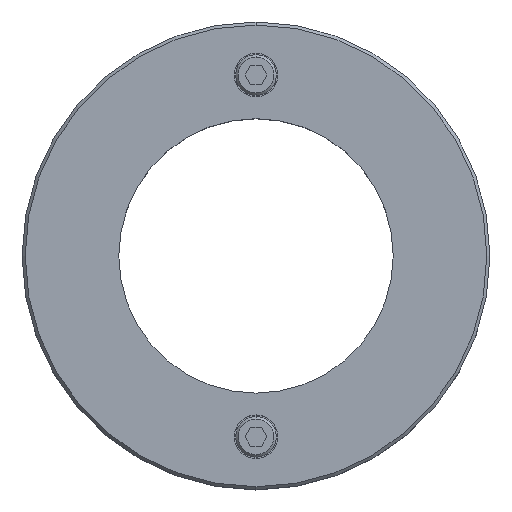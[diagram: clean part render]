
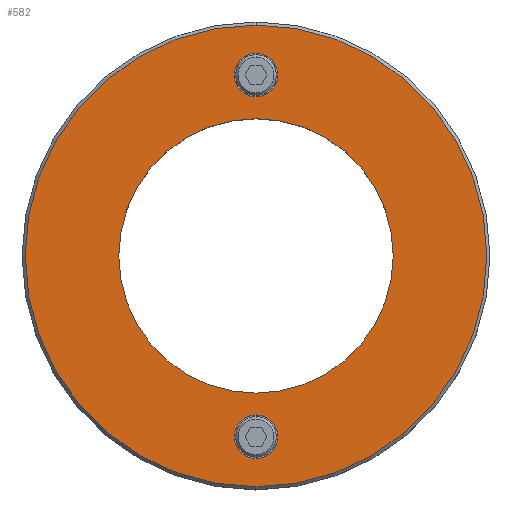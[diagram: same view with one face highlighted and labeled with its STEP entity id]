
A CAD part, top view. The second image highlights one B-rep face of the part: STEP entity #582.
In plain terms, the highlighted planar face has unit normal (0, 0, 1).
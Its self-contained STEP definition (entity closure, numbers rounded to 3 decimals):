
#105=VERTEX_POINT(' ',#106);
#106=CARTESIAN_POINT('',(0.,44.,30.));
#107=VERTEX_POINT(' ',#108);
#108=CARTESIAN_POINT('',(0.,-44.,30.));
#117=VERTEX_POINT(' ',#118);
#118=CARTESIAN_POINT('',(0.,65.,30.));
#119=VERTEX_POINT(' ',#120);
#120=CARTESIAN_POINT('',(0.,51.,30.));
#125=VERTEX_POINT(' ',#126);
#126=CARTESIAN_POINT('',(0.,-51.,30.));
#127=VERTEX_POINT(' ',#128);
#128=CARTESIAN_POINT('',(0.,-65.,30.));
#137=VERTEX_POINT(' ',#138);
#138=CARTESIAN_POINT('',(0.,-74.01,30.));
#139=VERTEX_POINT(' ',#140);
#140=CARTESIAN_POINT('',(0.,74.01,30.));
#199=CIRCLE('',#200,44.);
#200=AXIS2_PLACEMENT_3D('',#201,#202,#203);
#201=CARTESIAN_POINT('',(0.,0.,30.));
#202=DIRECTION('',(0.,0.,-1.));
#203=DIRECTION('',(-1.,0.,0.));
#204=EDGE_CURVE(' ',#105,#107,#199,.T.);
#205=CIRCLE('',#206,44.);
#206=AXIS2_PLACEMENT_3D('',#207,#208,#209);
#207=CARTESIAN_POINT('',(0.,0.,30.));
#208=DIRECTION('',(0.,0.,-1.));
#209=DIRECTION('',(1.,0.,0.));
#210=EDGE_CURVE(' ',#107,#105,#205,.T.);
#255=CIRCLE('',#256,7.);
#256=AXIS2_PLACEMENT_3D('',#257,#258,#259);
#257=CARTESIAN_POINT('',(0.,58.,30.));
#258=DIRECTION('',(0.,0.,1.));
#259=DIRECTION('',(1.,0.,0.));
#260=EDGE_CURVE(' ',#117,#119,#255,.T.);
#277=CIRCLE('',#278,7.);
#278=AXIS2_PLACEMENT_3D('',#279,#280,#281);
#279=CARTESIAN_POINT('',(0.,58.,30.));
#280=DIRECTION('',(0.,0.,1.));
#281=DIRECTION('',(-1.,0.,0.));
#282=EDGE_CURVE(' ',#119,#117,#277,.T.);
#289=CIRCLE('',#290,7.);
#290=AXIS2_PLACEMENT_3D('',#291,#292,#293);
#291=CARTESIAN_POINT('',(0.,-58.,30.));
#292=DIRECTION('',(0.,0.,1.));
#293=DIRECTION('',(1.,0.,0.));
#294=EDGE_CURVE(' ',#125,#127,#289,.T.);
#311=CIRCLE('',#312,7.);
#312=AXIS2_PLACEMENT_3D('',#313,#314,#315);
#313=CARTESIAN_POINT('',(0.,-58.,30.));
#314=DIRECTION('',(0.,0.,1.));
#315=DIRECTION('',(-1.,0.,0.));
#316=EDGE_CURVE(' ',#127,#125,#311,.T.);
#345=CIRCLE('',#346,74.01);
#346=AXIS2_PLACEMENT_3D('',#347,#348,#349);
#347=CARTESIAN_POINT('',(0.,0.,30.));
#348=DIRECTION('',(0.,0.,1.));
#349=DIRECTION('',(-1.,0.,0.));
#350=EDGE_CURVE(' ',#139,#137,#345,.F.);
#351=CIRCLE('',#352,74.01);
#352=AXIS2_PLACEMENT_3D('',#353,#354,#355);
#353=CARTESIAN_POINT('',(0.,0.,30.));
#354=DIRECTION('',(0.,0.,1.));
#355=DIRECTION('',(1.,0.,0.));
#356=EDGE_CURVE(' ',#137,#139,#351,.F.);
#561=ORIENTED_EDGE('',*,*,#350,.F.);
#562=ORIENTED_EDGE('',*,*,#356,.F.);
#563=EDGE_LOOP('',(#561,#562));
#564=FACE_OUTER_BOUND('',#563,.T.);
#565=ORIENTED_EDGE('',*,*,#316,.F.);
#566=ORIENTED_EDGE('',*,*,#294,.F.);
#567=EDGE_LOOP('',(#565,#566));
#568=FACE_BOUND('',#567,.T.);
#569=ORIENTED_EDGE('',*,*,#282,.F.);
#570=ORIENTED_EDGE('',*,*,#260,.F.);
#571=EDGE_LOOP('',(#569,#570));
#572=FACE_BOUND('',#571,.T.);
#573=ORIENTED_EDGE('',*,*,#204,.T.);
#574=ORIENTED_EDGE('',*,*,#210,.T.);
#575=EDGE_LOOP('',(#573,#574));
#576=FACE_BOUND('',#575,.T.);
#577=PLANE('',#578);
#578=AXIS2_PLACEMENT_3D('',#579,#580,#581);
#579=CARTESIAN_POINT('',(75.,0.,30.));
#580=DIRECTION('',(0.,0.,1.));
#581=DIRECTION('',(0.,1.,0.));
#582=ADVANCED_FACE('',(#564,#568,#572,#576),#577,.T.);
